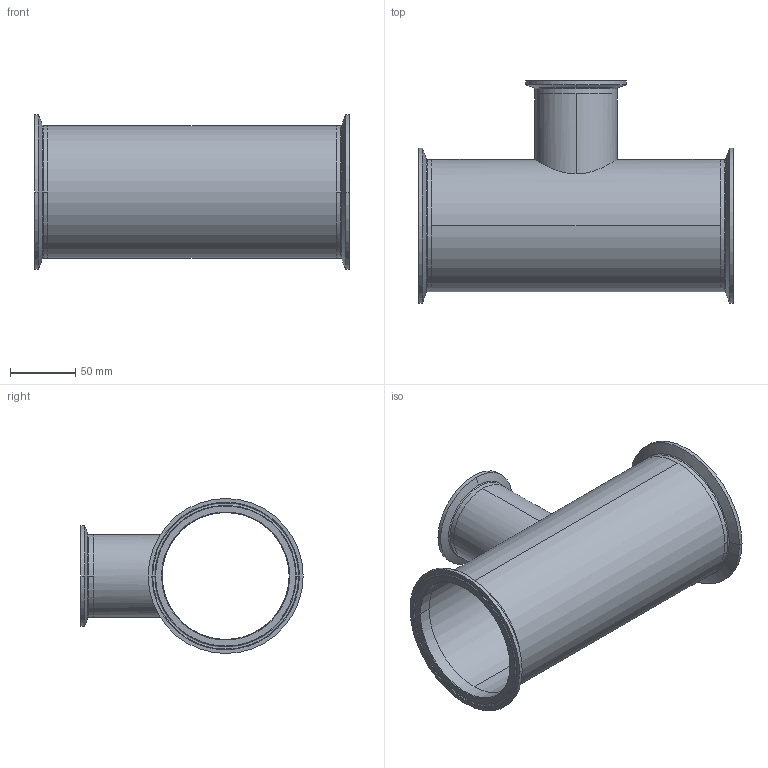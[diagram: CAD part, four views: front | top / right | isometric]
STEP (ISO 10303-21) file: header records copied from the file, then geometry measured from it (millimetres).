
FILE_DESCRIPTION (( 'STEP AP214' ), '1' );
FILE_NAME ('TEG7R6L4.0x2.5-...STEP', '2016-05-24T07:30:36', ( 'eran' ), ( '' ), 'SwSTEP 2.0', 'SolidWorks 2016', '' );
FILE_SCHEMA (( 'AUTOMOTIVE_DESIGN' ));
Length unit declared in the file: millimetre
Products named in the file (1): TEG7R6L4.0x2.5-..
Bounding box: 241.4 x 170.56 x 118.92 mm (x, y, z)
Volume: 205202.2 mm3; surface area: 189029.6 mm2
Topology: 4 solids, 4 shells, 86 faces, 212 edges, 138 vertices
Faces by surface type: bspline 30, cylinder 26, cone 18, plane 12
Entity records: 4896 total; most frequent: CARTESIAN_POINT 2799, DIRECTION 450, ORIENTED_EDGE 424, EDGE_CURVE 212, AXIS2_PLACEMENT_3D 203, CIRCLE 146, VERTEX_POINT 138, EDGE_LOOP 100
